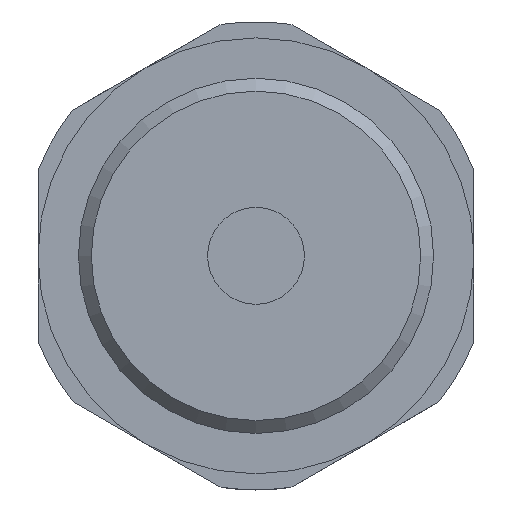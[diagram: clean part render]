
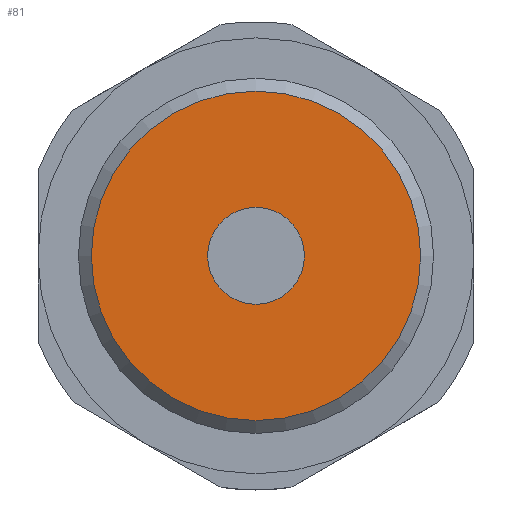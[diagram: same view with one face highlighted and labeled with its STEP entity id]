
A CAD part, front view. The second image highlights one B-rep face of the part: STEP entity #81.
In plain terms, the highlighted planar face has unit normal (0, -1, 0).
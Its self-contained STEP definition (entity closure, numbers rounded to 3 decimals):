
#81 = ADVANCED_FACE( '', ( #122, #123 ), #124, .F. );
#122 = FACE_BOUND( '', #207, .T. );
#123 = FACE_OUTER_BOUND( '', #208, .T. );
#124 = PLANE( '', #209 );
#207 = EDGE_LOOP( '', ( #316 ) );
#208 = EDGE_LOOP( '', ( #317 ) );
#209 = AXIS2_PLACEMENT_3D( '', #318, #319, #320 );
#316 = ORIENTED_EDGE( '', *, *, #504, .F. );
#317 = ORIENTED_EDGE( '', *, *, #506, .T. );
#318 = CARTESIAN_POINT( '', ( 10.2, -8.5, 0. ) );
#319 = DIRECTION( '', ( 0., 1., 0. ) );
#320 = DIRECTION( '', ( 0., 0., 1. ) );
#504 = EDGE_CURVE( '', #575, #575, #576, .T. );
#506 = EDGE_CURVE( '', #579, #579, #580, .T. );
#575 = VERTEX_POINT( '', #702 );
#576 = CIRCLE( '', #703, 3. );
#579 = VERTEX_POINT( '', #706 );
#580 = CIRCLE( '', #707, 10.2 );
#702 = CARTESIAN_POINT( '', ( 0., -8.5, -3. ) );
#703 = AXIS2_PLACEMENT_3D( '', #795, #796, #797 );
#706 = CARTESIAN_POINT( '', ( 0., -8.5, -10.2 ) );
#707 = AXIS2_PLACEMENT_3D( '', #801, #802, #803 );
#795 = CARTESIAN_POINT( '', ( 0., -8.5, 0. ) );
#796 = DIRECTION( '', ( 0., -1., 0. ) );
#797 = DIRECTION( '', ( 0., 0., -1. ) );
#801 = CARTESIAN_POINT( '', ( 0., -8.5, 0. ) );
#802 = DIRECTION( '', ( 0., -1., 0. ) );
#803 = DIRECTION( '', ( 0., 0., -1. ) );
